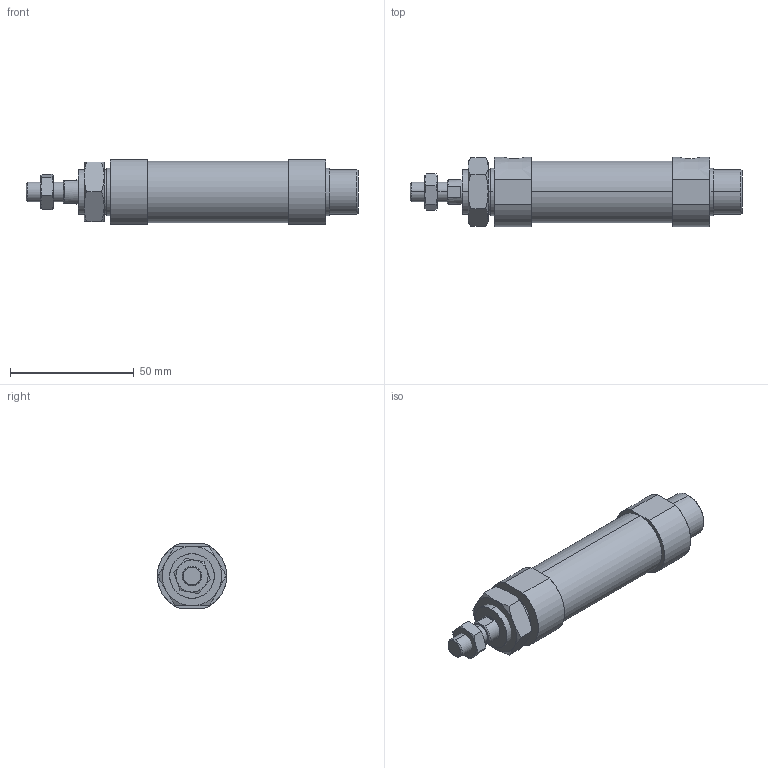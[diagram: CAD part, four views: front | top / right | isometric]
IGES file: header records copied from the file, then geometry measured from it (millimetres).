
Start section: SolidWorks IGES file using analytic representation for surfaces
Global section: file name: C:\Users\Toshiba\Desktop\J#2-20-25-N.IGS; native system: SolidWorks 2014; preprocessor: SolidWorks 2014; author: Toshiba; date: 160308.145539; units: millimetre
Bounding box: 134 x 28 x 26 mm (x, y, z)
Surface area: 13405.3 mm2 (no closed solid volume)
Topology: 0 solids, 0 shells, 92 faces, 1620 edges, 1620 vertices
Faces by surface type: bspline 60, revolution 32
